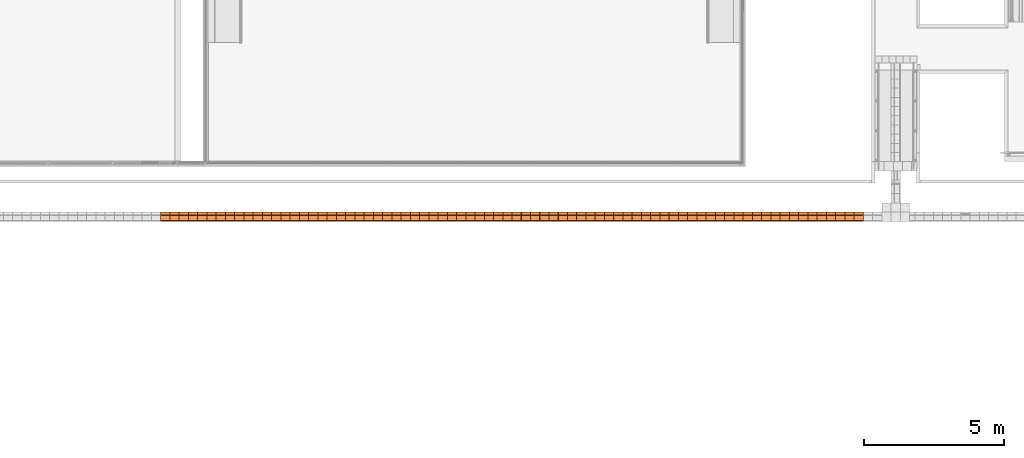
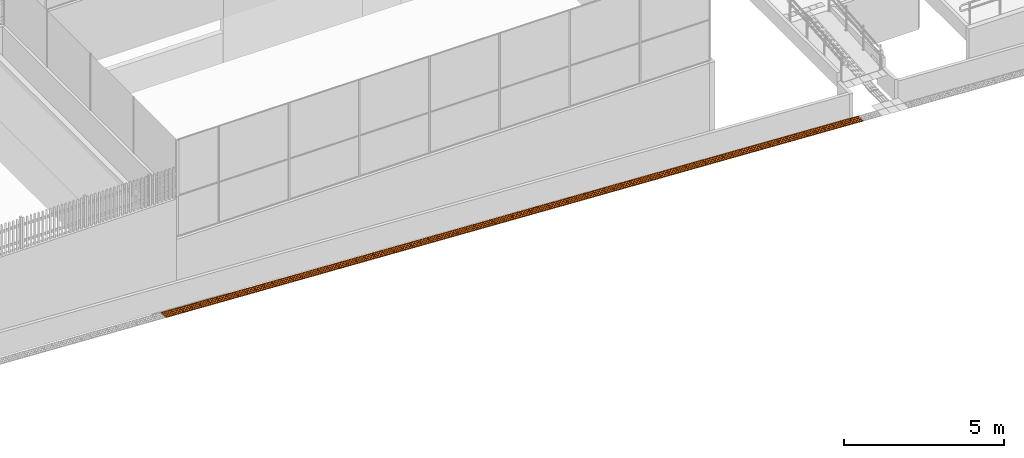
# One storey, part 171 of 237: 76 proxies.
"""IFC2X3 building model written with IfcOpenShell, lengths in millimetres."""

from ifc_helpers import new_model, entity, si_unit, converted_unit, derived_unit, money_unit, direction, frame, origin_with_axes, place, context, subcontext, project, spatial, open_shell, surface_model, source, transform, mapped, type_object, element, save


model = new_model("IFC2X3")

# Units and contexts
model_context = context("Model", 3, precision=0.01, world=origin_with_axes(), true_north=direction((0.0, 1.0)))
body_context = subcontext(model_context, "Body", "Model", "MODEL_VIEW")
ifc_project = project(units=[si_unit("LENGTHUNIT", "METRE", prefix="MILLI"), si_unit("AREAUNIT", "SQUARE_METRE"), si_unit("VOLUMEUNIT", "CUBIC_METRE"), converted_unit("PLANEANGLEUNIT", "DEGREE", entity("IfcPlaneAngleMeasure", 0.0174532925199), si_unit("PLANEANGLEUNIT", "RADIAN"), dimensions=[0, 0, 0, 0, 0, 0, 0]), money_unit("USD"), converted_unit("TIMEUNIT", "Year", entity("IfcTimeMeasure", 31556926.0), si_unit("TIMEUNIT", "SECOND"), dimensions=[0, 0, 1, 0, 0, 0, 0]), si_unit("MASSUNIT", "GRAM", prefix="KILO"), si_unit("THERMODYNAMICTEMPERATUREUNIT", "DEGREE_CELSIUS"), si_unit("LUMINOUSINTENSITYUNIT", "LUMEN"), si_unit("ENERGYUNIT", "JOULE", prefix="MEGA"), derived_unit("THERMALCONDUCTANCEUNIT", [(si_unit("POWERUNIT", "WATT"), 1), (si_unit("LENGTHUNIT", "METRE"), -1), (si_unit("THERMODYNAMICTEMPERATUREUNIT", "KELVIN"), -1)]), derived_unit("SPECIFICHEATCAPACITYUNIT", [(si_unit("ENERGYUNIT", "JOULE"), 1), (si_unit("MASSUNIT", "GRAM", prefix="KILO"), -1), (si_unit("THERMODYNAMICTEMPERATUREUNIT", "KELVIN"), -1)]), derived_unit("MASSDENSITYUNIT", [(si_unit("MASSUNIT", "GRAM", prefix="KILO"), 1), (si_unit("VOLUMEUNIT", "CUBIC_METRE"), -1)])], contexts=[model_context])

# Site, building, storey
site_placement = place(None, origin_with_axes())
site = spatial("IfcSite", under=ifc_project, at=site_placement, Name="Local", CompositionType="ELEMENT")
building_placement = place(site_placement, origin_with_axes())
building = spatial("IfcBuilding", under=site, at=building_placement, Name="Construção", CompositionType="ELEMENT")
storey_placement = place(building_placement, origin_with_axes())
storey = spatial("IfcBuildingStorey", under=building, at=storey_placement, Name="Pavimento Térreo", CompositionType="ELEMENT", Elevation=0.0)

# Proxies
building_element_proxy_type = type_object("IfcBuildingElementProxyType", Name="Piso Direcional 27", PredefinedType="NOTDEFINED")
shared_shape = source(origin_with_axes(), body_context, "Body", "SurfaceModel", [
    surface_model("IfcShellBasedSurfaceModel", [(-0.196792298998, -47.258225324, 4.02371099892), (329.409233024, -47.258225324, 20.1441350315), (329.083567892, -41.665004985, 26.8028426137), (-0.522457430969, -41.665004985, 10.6824185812)], [open_shell([[[0, 1, 2, 3]]])]),
    surface_model("IfcShellBasedSurfaceModel", [(330.060563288, -153.529411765, 6.82671986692), (330.060563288, 176.470588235, 6.82671986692), (329.409233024, 176.470588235, 20.1441350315), (329.409233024, 154.097706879, 20.1441350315), (329.083567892, 148.50448654, 26.8028426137), (329.083567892, 126.131605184, 26.8028426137), (329.409233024, 120.538384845, 20.1441350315), (329.409233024, 70.1994017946, 20.1441350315), (329.083567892, 64.6061814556, 26.8028426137), (329.083567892, 42.2333000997, 26.8028426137), (329.409233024, 36.6400797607, 20.1441350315), (329.409233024, -13.6989032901, 20.1441350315), (329.083567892, -19.2921236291, 26.8028426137), (329.083567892, -41.665004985, 26.8028426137), (329.409233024, -47.258225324, 20.1441350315), (329.409233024, -97.5972083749, 20.1441350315), (329.083567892, -103.190428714, 26.8028426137), (329.083567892, -125.56331007, 26.8028426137), (329.409233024, -131.156530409, 20.1441350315), (329.409233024, -153.529411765, 20.1441350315)], [open_shell([[[0, 1, 2, 3, 4, 5, 6, 7, 8, 9, 10, 11, 12, 13, 14, 15, 16, 17, 18, 19]]])]),
    surface_model("IfcShellBasedSurfaceModel", [(-0.522457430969, -19.2921236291, 10.6824185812), (329.083567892, -19.2921236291, 26.8028426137), (329.409233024, -13.6989032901, 20.1441350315), (-0.196792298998, -13.6989032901, 4.02371099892)], [open_shell([[[0, 1, 2, 3]]])]),
    surface_model("IfcShellBasedSurfaceModel", [(-0.522457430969, -103.190428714, 10.6824185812), (329.083567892, -103.190428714, 26.8028426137), (329.409233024, -97.5972083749, 20.1441350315), (-0.196792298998, -97.5972083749, 4.02371099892)], [open_shell([[[0, 1, 2, 3]]])]),
    surface_model("IfcShellBasedSurfaceModel", [(-0.522457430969, 64.6061814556, 10.6824185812), (329.083567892, 64.6061814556, 26.8028426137), (329.409233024, 70.1994017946, 20.1441350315), (-0.196792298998, 70.1994017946, 4.02371099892)], [open_shell([[[0, 1, 2, 3]]])]),
    surface_model("IfcShellBasedSurfaceModel", [(-0.196792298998, 36.6400797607, 4.02371099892), (329.409233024, 36.6400797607, 20.1441350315), (329.083567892, 42.2333000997, 26.8028426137), (-0.522457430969, 42.2333000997, 10.6824185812)], [open_shell([[[0, 1, 2, 3]]])]),
    surface_model("IfcShellBasedSurfaceModel", [(-0.196792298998, -131.156530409, 4.02371099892), (329.409233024, -131.156530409, 20.1441350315), (329.083567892, -125.56331007, 26.8028426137), (-0.522457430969, -125.56331007, 10.6824185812)], [open_shell([[[0, 1, 2, 3]]])]),
    surface_model("IfcShellBasedSurfaceModel", [(-0.196792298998, 176.470588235, 4.02371099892), (-0.196792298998, 154.097706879, 4.02371099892), (329.409233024, 154.097706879, 20.1441350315), (329.409233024, 176.470588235, 20.1441350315)], [open_shell([[[0, 1, 2, 3]]])]),
    surface_model("IfcShellBasedSurfaceModel", [(-0.196792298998, 120.538384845, 4.02371099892), (329.409233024, 120.538384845, 20.1441350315), (329.083567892, 126.131605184, 26.8028426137), (-0.522457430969, 126.131605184, 10.6824185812)], [open_shell([[[0, 1, 2, 3]]])]),
    surface_model("IfcShellBasedSurfaceModel", [(-0.522457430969, 148.50448654, 10.6824185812), (329.083567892, 148.50448654, 26.8028426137), (329.409233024, 154.097706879, 20.1441350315), (-0.196792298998, 154.097706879, 4.02371099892)], [open_shell([[[0, 1, 2, 3]]])]),
    surface_model("IfcShellBasedSurfaceModel", [(-0.196792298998, 36.6400797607, 4.02371099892), (-0.196792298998, -13.6989032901, 4.02371099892), (329.409233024, -13.6989032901, 20.1441350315), (329.409233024, 36.6400797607, 20.1441350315)], [open_shell([[[0, 1, 2, 3]]])]),
    surface_model("IfcShellBasedSurfaceModel", [(-0.196792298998, 120.538384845, 4.02371099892), (-0.196792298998, 70.1994017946, 4.02371099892), (329.409233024, 70.1994017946, 20.1441350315), (329.409233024, 120.538384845, 20.1441350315)], [open_shell([[[0, 1, 2, 3]]])]),
    surface_model("IfcShellBasedSurfaceModel", [(-0.522457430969, 148.50448654, 10.6824185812), (-0.522457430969, 126.131605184, 10.6824185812), (329.083567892, 126.131605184, 26.8028426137), (329.083567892, 148.50448654, 26.8028426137)], [open_shell([[[0, 1, 2, 3]]])]),
    surface_model("IfcShellBasedSurfaceModel", [(-0.196792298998, 120.538384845, 4.02371099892), (-0.522457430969, 126.131605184, 10.6824185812), (-0.522457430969, 148.50448654, 10.6824185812), (-0.196792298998, 154.097706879, 4.02371099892), (-0.196792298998, 176.470588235, 4.02371099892), (0.454537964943, 176.470588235, -9.29370416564), (0.454537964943, -153.529411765, -9.29370416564), (-0.196792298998, -153.529411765, 4.02371099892), (-0.196792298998, -131.156530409, 4.02371099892), (-0.522457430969, -125.56331007, 10.6824185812), (-0.522457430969, -103.190428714, 10.6824185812), (-0.196792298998, -97.5972083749, 4.02371099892), (-0.196792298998, -47.258225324, 4.02371099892), (-0.522457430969, -41.665004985, 10.6824185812), (-0.522457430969, -19.2921236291, 10.6824185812), (-0.196792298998, -13.6989032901, 4.02371099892), (-0.196792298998, 36.6400797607, 4.02371099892), (-0.522457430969, 42.2333000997, 10.6824185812), (-0.522457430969, 64.6061814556, 10.6824185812), (-0.196792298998, 70.1994017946, 4.02371099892)], [open_shell([[[0, 1, 2, 3, 4, 5, 6, 7, 8, 9, 10, 11, 12, 13, 14, 15, 16, 17, 18, 19]]])]),
    surface_model("IfcShellBasedSurfaceModel", [(329.083567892, -41.665004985, 26.8028426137), (329.083567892, -19.2921236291, 26.8028426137), (-0.522457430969, -19.2921236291, 10.6824185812), (-0.522457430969, -41.665004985, 10.6824185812)], [open_shell([[[0, 1, 2, 3]]])]),
    surface_model("IfcShellBasedSurfaceModel", [(-0.196792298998, -47.258225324, 4.02371099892), (-0.196792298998, -97.5972083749, 4.02371099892), (329.409233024, -97.5972083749, 20.1441350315), (329.409233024, -47.258225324, 20.1441350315)], [open_shell([[[0, 1, 2, 3]]])]),
    surface_model("IfcShellBasedSurfaceModel", [(329.083567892, 42.2333000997, 26.8028426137), (329.083567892, 64.6061814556, 26.8028426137), (-0.522457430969, 64.6061814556, 10.6824185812), (-0.522457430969, 42.2333000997, 10.6824185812)], [open_shell([[[0, 1, 2, 3]]])]),
    surface_model("IfcShellBasedSurfaceModel", [(329.083567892, -125.56331007, 26.8028426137), (329.083567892, -103.190428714, 26.8028426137), (-0.522457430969, -103.190428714, 10.6824185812), (-0.522457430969, -125.56331007, 10.6824185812)], [open_shell([[[0, 1, 2, 3]]])]),
    surface_model("IfcShellBasedSurfaceModel", [(330.060563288, 176.470588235, 6.82671986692), (0.454537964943, 176.470588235, -9.29370416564), (-0.196792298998, 176.470588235, 4.02371099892), (329.409233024, 176.470588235, 20.1441350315)], [open_shell([[[0, 1, 2, 3]]])]),
    surface_model("IfcShellBasedSurfaceModel", [(330.060563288, -153.529411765, 6.82671986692), (0.454537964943, -153.529411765, -9.29370416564), (0.454537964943, 176.470588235, -9.29370416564), (330.060563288, 176.470588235, 6.82671986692)], [open_shell([[[0, 1, 2, 3]]])]),
    surface_model("IfcShellBasedSurfaceModel", [(329.409233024, -153.529411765, 20.1441350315), (329.409233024, -131.156530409, 20.1441350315), (-0.196792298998, -131.156530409, 4.02371099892), (-0.196792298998, -153.529411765, 4.02371099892)], [open_shell([[[0, 1, 2, 3]]])]),
    surface_model("IfcShellBasedSurfaceModel", [(0.454537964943, -153.529411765, -9.29370416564), (330.060563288, -153.529411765, 6.82671986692), (329.409233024, -153.529411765, 20.1441350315), (-0.196792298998, -153.529411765, 4.02371099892)], [open_shell([[[0, 1, 2, 3]]])]),
])
for number, where, z_axis, x_axis, name in (
    (1, (58847.3714789, 10834.0941893, -4021.14215181), (0.0, 0.0, 1.0), (-1.0, 0.0, 0.0), "Objeto-0055"),
    (2, (58516.7488596, 10834.0941893, -4003.87709439), (0.0, 0.0, 1.0), (-1.0, 0.0, 0.0), "Objeto-0055"),
    (3, (58186.1262404, 10834.0941893, -3986.61203696), (0.0, 0.0, 1.0), (-1.0, 0.0, 0.0), "Objeto-0055"),
    (4, (78681.6788516, 10834.0941893, -5053.61169718), (0.0, 0.0, 1.0), (-1.0, 0.0, 0.0), "Objeto-0055"),
    (5, (78351.0562324, 10834.0941893, -5036.34663975), (0.0, 0.0, 1.0), (-1.0, 0.0, 0.0), "Objeto-0055"),
    (6, (62814.8429098, 10834.0941893, -4228.32284092), (0.0, 0.0, 1.0), (-1.0, 0.0, 0.0), "Objeto-0055"),
    (7, (60831.1071943, 10834.0941893, -4124.73249637), (0.0, 0.0, 1.0), (-1.0, 0.0, 0.0), "Objeto-0055"),
    (8, (62484.2202905, 10834.0941893, -4211.0577835), (0.0, 0.0, 1.0), (-1.0, 0.0, 0.0), "Objeto-0055"),
    (9, (64797.5620313, 10834.0941893, -4330.76855208), (0.0, 0.0, 1.0), (-1.0, 0.0, 0.0), "Objeto-0055"),
    (10, (64466.9394121, 10834.0941893, -4313.50349466), (0.0, 0.0, 1.0), (-1.0, 0.0, 0.0), "Objeto-0055"),
    (11, (65128.1846505, 10834.0941893, -4348.03360951), (0.0, 0.0, 1.0), (-1.0, 0.0, 0.0), "Objeto-0055"),
    (12, (59177.9940981, 10834.0941893, -4038.40720924), (0.0, 0.0, 1.0), (-1.0, 0.0, 0.0), "Objeto-0055"),
    (13, (59508.6167173, 10834.0941893, -4055.67226666), (0.0, 0.0, 1.0), (-1.0, 0.0, 0.0), "Objeto-0055"),
    (14, (59839.2393366, 10834.0941893, -4072.93732409), (0.0, 0.0, 1.0), (-1.0, 0.0, 0.0), "Objeto-0055"),
    (15, (60169.8619558, 10834.0941893, -4090.20238151), (0.0, 0.0, 1.0), (-1.0, 0.0, 0.0), "Objeto-0055"),
    (16, (60500.4845751, 10834.0941893, -4107.46743894), (0.0, 0.0, 1.0), (-1.0, 0.0, 0.0), "Objeto-0055"),
    (17, (62153.5976713, 10834.0941893, -4193.79272607), (0.0, 0.0, 1.0), (-1.0, 0.0, 0.0), "Objeto-0055"),
    (18, (61822.975052, 10834.0941893, -4176.52766864), (0.0, 0.0, 1.0), (-1.0, 0.0, 0.0), "Objeto-0055"),
    (19, (61492.3524328, 10834.0941893, -4159.26261122), (0.0, 0.0, 1.0), (-1.0, 0.0, 0.0), "Objeto-0055"),
    (20, (61161.7298136, 10834.0941893, -4141.99755379), (0.0, 0.0, 1.0), (-1.0, 0.0, 0.0), "Objeto-0055"),
    (21, (64136.3167928, 10834.0941893, -4296.23843723), (0.0, 0.0, 1.0), (-1.0, 0.0, 0.0), "Objeto-0055"),
    (22, (63805.6941736, 10834.0941893, -4278.97337981), (0.0, 0.0, 1.0), (-1.0, 0.0, 0.0), "Objeto-0055"),
    (23, (63476.0881482, 10834.0941893, -4262.85295577), (0.0, 0.0, 1.0), (-1.0, 0.0, 0.0), "Objeto-0055"),
    (24, (63145.465529, 10834.0941893, -4245.58789835), (0.0, 0.0, 1.0), (-1.0, 0.0, 0.0), "Objeto-0055"),
    (25, (65458.8072698, 10834.0941893, -4365.29866693), (0.0, 0.0, 1.0), (-1.0, 0.0, 0.0), "Objeto-0055"),
    (26, (65789.429889, 10834.0941893, -4382.56372436), (0.0, 0.0, 1.0), (-1.0, 0.0, 0.0), "Objeto-0055"),
    (27, (66120.0525083, 10834.0941893, -4399.82878179), (0.0, 0.0, 1.0), (-1.0, 0.0, 0.0), "Objeto-0055"),
    (28, (66450.6751275, 10834.0941893, -4417.09383921), (0.0, 0.0, 1.0), (-1.0, 0.0, 0.0), "Objeto-0055"),
    (29, (66781.2977467, 10834.0941893, -4434.35889664), (0.0, 0.0, 1.0), (-1.0, 0.0, 0.0), "Objeto-0055"),
    (30, (67111.920366, 10834.0941893, -4451.62395406), (0.0, 0.0, 1.0), (-1.0, 0.0, 0.0), "Objeto-0055"),
    (31, (67442.5429852, 10834.0941893, -4468.88901149), (0.0, 0.0, 1.0), (-1.0, 0.0, 0.0), "Objeto-0055"),
    (32, (67773.1656045, 10834.0941893, -4486.15406891), (0.0, 0.0, 1.0), (-1.0, 0.0, 0.0), "Objeto-0055"),
    (33, (68103.7882237, 10834.0941893, -4503.41912634), (0.0, 0.0, 1.0), (-1.0, 0.0, 0.0), "Objeto-0055"),
    (34, (68434.410843, 10834.0941893, -4520.68418377), (0.0, 0.0, 1.0), (-1.0, 0.0, 0.0), "Objeto-0055"),
    (35, (68765.0334622, 10834.0941893, -4537.94924119), (0.0, 0.0, 1.0), (-1.0, 0.0, 0.0), "Objeto-0055"),
    (36, (69095.6560814, 10834.0941893, -4555.21429862), (0.0, 0.0, 1.0), (-1.0, 0.0, 0.0), "Objeto-0055"),
    (37, (69426.2787007, 10834.0941893, -4572.47935604), (0.0, 0.0, 1.0), (-1.0, 0.0, 0.0), "Objeto-0055"),
    (38, (69756.9013199, 10834.0941893, -4589.74441347), (0.0, 0.0, 1.0), (-1.0, 0.0, 0.0), "Objeto-0055"),
    (39, (70087.5239392, 10834.0941893, -4607.0094709), (0.0, 0.0, 1.0), (-1.0, 0.0, 0.0), "Objeto-0055"),
    (40, (70417.1299645, 10834.0941893, -4623.12989493), (0.0, 0.0, 1.0), (-1.0, 0.0, 0.0), "Objeto-0055"),
    (41, (70747.7525837, 10834.0941893, -4640.39495235), (0.0, 0.0, 1.0), (-1.0, 0.0, 0.0), "Objeto-0055"),
    (42, (71078.375203, 10834.0941893, -4657.66000978), (0.0, 0.0, 1.0), (-1.0, 0.0, 0.0), "Objeto-0055"),
    (43, (71408.9978222, 10834.0941893, -4674.92506721), (0.0, 0.0, 1.0), (-1.0, 0.0, 0.0), "Objeto-0055"),
    (44, (71739.6204415, 10834.0941893, -4692.19012463), (0.0, 0.0, 1.0), (-1.0, 0.0, 0.0), "Objeto-0055"),
    (45, (72070.2430607, 10834.0941893, -4709.45518206), (0.0, 0.0, 1.0), (-1.0, 0.0, 0.0), "Objeto-0055"),
    (46, (72400.8656799, 10834.0941893, -4726.72023948), (0.0, 0.0, 1.0), (-1.0, 0.0, 0.0), "Objeto-0055"),
    (47, (72731.4882992, 10834.0941893, -4743.98529691), (0.0, 0.0, 1.0), (-1.0, 0.0, 0.0), "Objeto-0055"),
    (48, (73062.1109184, 10834.0941893, -4761.25035433), (0.0, 0.0, 1.0), (-1.0, 0.0, 0.0), "Objeto-0055"),
    (49, (73392.7335377, 10834.0941893, -4778.51541176), (0.0, 0.0, 1.0), (-1.0, 0.0, 0.0), "Objeto-0055"),
    (50, (73723.3561569, 10834.0941893, -4795.78046919), (0.0, 0.0, 1.0), (-1.0, 0.0, 0.0), "Objeto-0055"),
    (51, (75045.8466339, 10834.0941893, -4864.84069889), (0.0, 0.0, 1.0), (-1.0, 0.0, 0.0), "Objeto-0055"),
    (52, (74053.9787761, 10834.0941893, -4813.04552661), (0.0, 0.0, 1.0), (-1.0, 0.0, 0.0), "Objeto-0055"),
    (53, (74384.6013954, 10834.0941893, -4830.31058404), (0.0, 0.0, 1.0), (-1.0, 0.0, 0.0), "Objeto-0055"),
    (54, (74715.2240146, 10834.0941893, -4847.57564146), (0.0, 0.0, 1.0), (-1.0, 0.0, 0.0), "Objeto-0055"),
    (55, (75376.4692531, 10834.0941893, -4882.10575631), (0.0, 0.0, 1.0), (-1.0, 0.0, 0.0), "Objeto-0055"),
    (56, (75707.0918724, 10834.0941893, -4899.37081374), (0.0, 0.0, 1.0), (-1.0, 0.0, 0.0), "Objeto-0055"),
    (57, (76037.7144916, 10834.0941893, -4916.63587117), (0.0, 0.0, 1.0), (-1.0, 0.0, 0.0), "Objeto-0055"),
    (58, (76368.3371108, 10834.0941893, -4933.90092859), (0.0, 0.0, 1.0), (-1.0, 0.0, 0.0), "Objeto-0055"),
    (59, (76698.9597301, 10834.0941893, -4951.16598602), (0.0, 0.0, 1.0), (-1.0, 0.0, 0.0), "Objeto-0055"),
    (60, (77028.5657554, 10834.0941893, -4967.28641005), (0.0, 0.0, 1.0), (-1.0, 0.0, 0.0), "Objeto-0055"),
    (61, (77359.1883746, 10834.0941893, -4984.55146748), (0.0, 0.0, 1.0), (-1.0, 0.0, 0.0), "Objeto-0055"),
    (62, (77689.8109939, 10834.0941893, -5001.8165249), (0.0, 0.0, 1.0), (-1.0, 0.0, 0.0), "Objeto-0055"),
    (63, (78020.4336131, 10834.0941893, -5019.08158233), (0.0, 0.0, 1.0), (-1.0, 0.0, 0.0), "Objeto-0055"),
    (64, (79012.3014708, 10834.0941893, -5070.8767546), (0.0, 0.0, 1.0), (-1.0, 0.0, 0.0), "Objeto-0055"),
    (65, (79342.9240901, 10834.0941893, -5088.14181203), (0.0, 0.0, 1.0), (-1.0, 0.0, 0.0), "Objeto-0055"),
    (66, (79673.5467093, 10834.0941893, -5105.40686946), (0.0, 0.0, 1.0), (-1.0, 0.0, 0.0), "Objeto-0055"),
    (67, (80004.1693286, 10834.0941893, -5122.67192688), (0.0, 0.0, 1.0), (-1.0, 0.0, 0.0), "Objeto-0055"),
    (68, (80334.7919478, 10834.0941893, -5139.93698431), (0.0, 0.0, 1.0), (-1.0, 0.0, 0.0), "Objeto-0055"),
    (69, (80665.4145671, 10834.0941893, -5157.20204173), (0.0, 0.0, 1.0), (-1.0, 0.0, 0.0), "Objeto-0055"),
    (70, (80996.0371863, 10834.0941893, -5174.46709916), (0.0, 0.0, 1.0), (-1.0, 0.0, 0.0), "Objeto-0055"),
    (71, (81326.6598055, 10834.0941893, -5191.73215659), (0.0, 0.0, 1.0), (-1.0, 0.0, 0.0), "Objeto-0055"),
    (72, (81657.2824248, 10834.0941893, -5208.99721401), (0.0, 0.0, 1.0), (-1.0, 0.0, 0.0), "Objeto-0055"),
    (73, (81987.905044, 10834.0941893, -5226.26227144), (0.0, 0.0, 1.0), (-1.0, 0.0, 0.0), "Objeto-0055"),
    (74, (82318.5276633, 10834.0941893, -5243.52732886), (0.0, 0.0, 1.0), (-1.0, 0.0, 0.0), "Objeto-0055"),
    (75, (82649.1502825, 10834.0941893, -5260.79238629), (0.0, 0.0, 1.0), (-1.0, 0.0, 0.0), "Objeto-0055"),
    (76, (82979.7729018, 10834.0941893, -5278.05744371), (0.0, 0.0, 1.0), (-1.0, 0.0, 0.0), "Objeto-0055"),
):
    element("IfcBuildingElementProxy", number, at=place(storey_placement, frame(where, z_axis=z_axis, x_axis=x_axis)), inside=storey, type_object=building_element_proxy_type, Name=name, context=body_context, shape_type="MappedRepresentation", body=[
        mapped(shared_shape, transform((0.0, 0.0, 0.0))),
    ])

save(model, "model.ifc")
